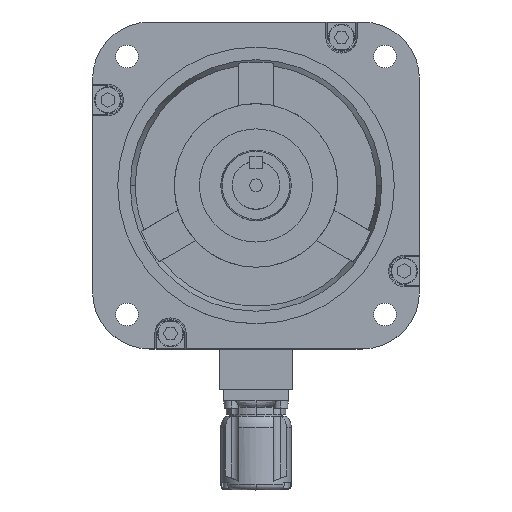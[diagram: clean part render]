
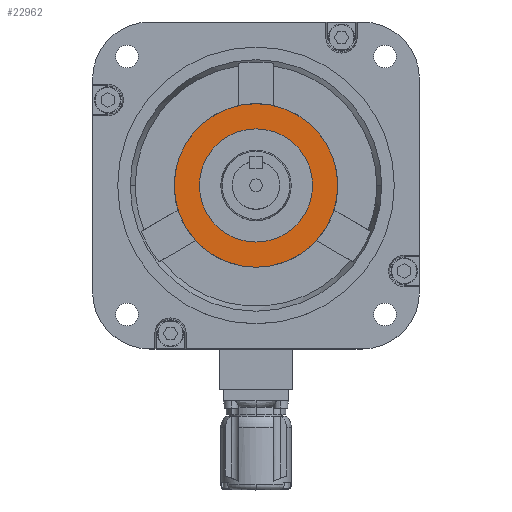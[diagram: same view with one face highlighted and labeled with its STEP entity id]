
A CAD part, top view. The second image highlights one B-rep face of the part: STEP entity #22962.
In plain terms, the highlighted planar face has unit normal (0, 0, 1).
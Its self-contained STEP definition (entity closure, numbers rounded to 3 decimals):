
#6056 = DIRECTION ( 'NONE',  ( 1., 0., 0. ) ) ;
#6057 = DIRECTION ( 'NONE',  ( 0., 0., 1. ) ) ;
#6058 = CARTESIAN_POINT ( 'NONE',  ( 0., 0., 6. ) ) ;
#6059 = AXIS2_PLACEMENT_3D ( 'NONE', #6058, #6057, #6056 ) ;
#6060 = PLANE ( 'NONE',  #6059 ) ;
#6061 = FACE_OUTER_BOUND ( 'NONE', #21167, .T. ) ;
#6062 = FACE_BOUND ( 'NONE', #22963, .T. ) ;
#6155 = DIRECTION ( 'NONE',  ( 1., 0., 0. ) ) ;
#6156 = DIRECTION ( 'NONE',  ( 0., 0., 1. ) ) ;
#6157 = CARTESIAN_POINT ( 'NONE',  ( 0., 0., 6. ) ) ;
#6158 = AXIS2_PLACEMENT_3D ( 'NONE', #6157, #6156, #6155 ) ;
#6159 = CIRCLE ( 'NONE', #6158, 22.5 ) ;
#8888 = CARTESIAN_POINT ( 'NONE',  ( 22.5, 0., 6. ) ) ;
#8889 = DIRECTION ( 'NONE',  ( 1., 0., 0. ) ) ;
#8890 = DIRECTION ( 'NONE',  ( 0., 0., 1. ) ) ;
#8891 = CARTESIAN_POINT ( 'NONE',  ( 0., 0., 6. ) ) ;
#8892 = AXIS2_PLACEMENT_3D ( 'NONE', #8891, #8890, #8889 ) ;
#8893 = CIRCLE ( 'NONE', #8892, 22.5 ) ;
#8959 = CARTESIAN_POINT ( 'NONE',  ( -22.5, 0., 6. ) ) ;
#10224 = CARTESIAN_POINT ( 'NONE',  ( 32.5, 0., 6. ) ) ;
#10225 = DIRECTION ( 'NONE',  ( 1., 0., 0. ) ) ;
#10226 = DIRECTION ( 'NONE',  ( 0., 0., 1. ) ) ;
#10227 = CARTESIAN_POINT ( 'NONE',  ( 0., 0., 6. ) ) ;
#10228 = AXIS2_PLACEMENT_3D ( 'NONE', #10227, #10226, #10225 ) ;
#10229 = CIRCLE ( 'NONE', #10228, 32.5 ) ;
#10230 = CARTESIAN_POINT ( 'NONE',  ( -32.5, 0., 6. ) ) ;
#11955 = DIRECTION ( 'NONE',  ( 1., 0., 0. ) ) ;
#11956 = DIRECTION ( 'NONE',  ( 0., 0., 1. ) ) ;
#11957 = CARTESIAN_POINT ( 'NONE',  ( 0., 0., 6. ) ) ;
#11958 = AXIS2_PLACEMENT_3D ( 'NONE', #11957, #11956, #11955 ) ;
#11959 = CIRCLE ( 'NONE', #11958, 32.5 ) ;
#21167 = EDGE_LOOP ( 'NONE', ( #23018, #23019 ) ) ;
#22962 = ADVANCED_FACE ( 'NONE', ( #6062, #6061 ), #6060, .T. ) ;
#22963 = EDGE_LOOP ( 'NONE', ( #22964, #22965 ) ) ;
#22964 = ORIENTED_EDGE ( 'NONE', *, *, #23039, .F. ) ;
#22965 = ORIENTED_EDGE ( 'NONE', *, *, #24745, .F. ) ;
#23018 = ORIENTED_EDGE ( 'NONE', *, *, #25416, .T. ) ;
#23019 = ORIENTED_EDGE ( 'NONE', *, *, #26272, .T. ) ;
#23039 = EDGE_CURVE ( 'NONE', #24746, #24772, #6159, .T. ) ;
#24745 = EDGE_CURVE ( 'NONE', #24772, #24746, #8893, .T. ) ;
#24746 = VERTEX_POINT ( 'NONE', #8888 ) ;
#24772 = VERTEX_POINT ( 'NONE', #8959 ) ;
#25414 = VERTEX_POINT ( 'NONE', #10230 ) ;
#25416 = EDGE_CURVE ( 'NONE', #25417, #25414, #10229, .T. ) ;
#25417 = VERTEX_POINT ( 'NONE', #10224 ) ;
#26272 = EDGE_CURVE ( 'NONE', #25414, #25417, #11959, .T. ) ;
